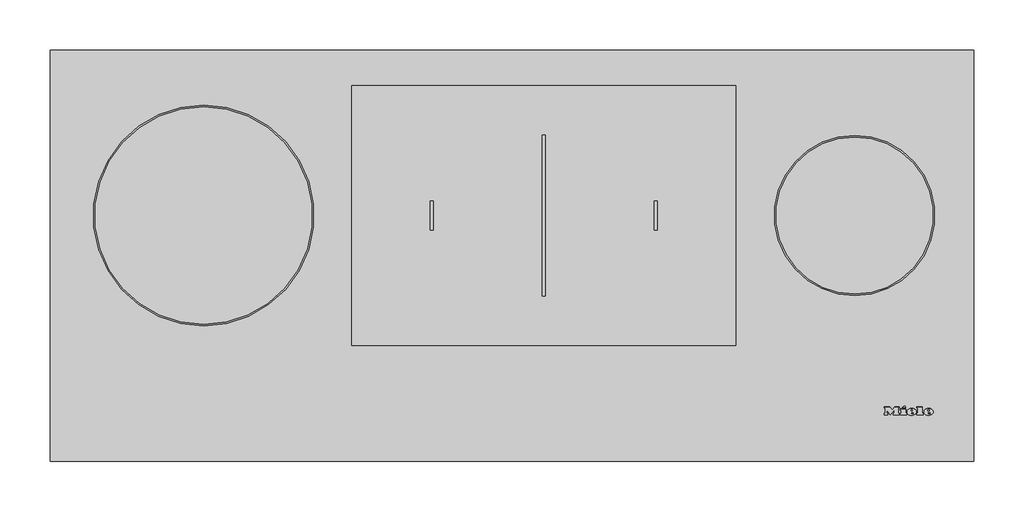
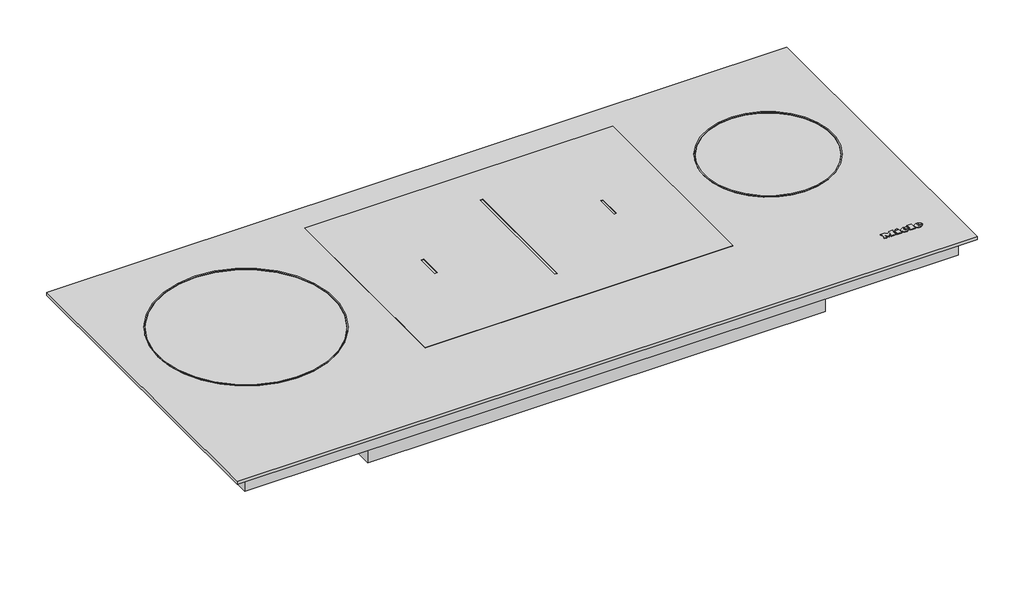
# Not in any storey: 1 proxy.
"""IFC4 building model written with IfcOpenShell, lengths in millimetres."""

from ifc_helpers import new_model, si_unit, origin, place, context, project, spatial, transform, mapped, element, save
from components import specialty_equipment_5bd18841

model = new_model("IFC4")

# Units and contexts
model_context = context("Model", 3, world=origin())
ifc_project = project(units=[si_unit("LENGTHUNIT", "METRE", prefix="MILLI")], contexts=[model_context])

# Site, building
site = spatial("IfcSite", under=ifc_project)
building = spatial("IfcBuilding", under=site)

# Proxy
placement = place(None, origin())
specialty_equipment_shape = specialty_equipment_5bd18841(model_context)
element("IfcBuildingElementProxy", 1, Name="11512130_CH_KM7689FL : 26768970_CH_11512130_KM7689FL", ObjectType="11512130_CH_KM7689FL : 26768970_CH_11512130_KM7689FL", at=placement, inside=building, context=model_context, shape_type="MappedRepresentation", body=[
    mapped(specialty_equipment_shape, transform((0.0, 0.0, 0.0), x_axis=(1.0, 0.0, 0.0), y_axis=(0.0, 1.0, 0.0), z_axis=(0.0, 0.0, 1.0))),
])

save(model, "model.ifc")
